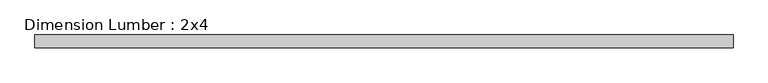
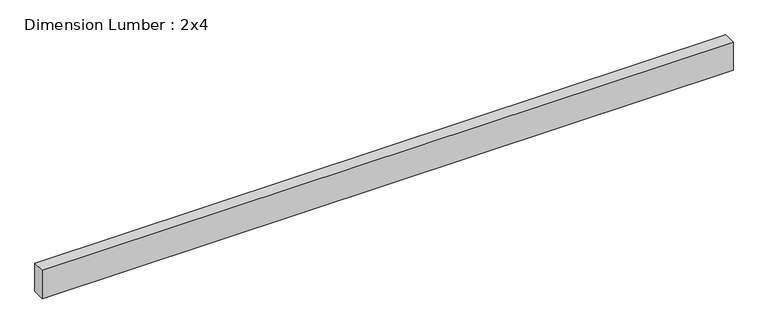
"""IFC4 building model written with IfcOpenShell, lengths in millimetres: beam geometry, Dimension Lumber : 2x4."""

from ifc_helpers import new_model, si_unit, frame, origin, place, context, project, spatial, polyline, outline, extrude, source, transform, mapped, element, save


def dimension_lumber_2x4_dd57d4c7(model_context):
    return source(origin(), model_context, "Body", "SweptSolid", [
        extrude(outline(polyline([(1031.0467136, 19.05), (1031.0467136, -19.05), (-1031.0467136, -19.05), (-1031.0467136, 19.05), (1031.0467136, 19.05)])), frame((0.0, 0.0, -44.45), z_axis=(0.0, 0.0, 1.0), x_axis=(1.0, 0.0, 0.0)), (0.0, 0.0, 1.0), 88.9),
    ])


if __name__ == "__main__":
    model = new_model("IFC4")
    model_context = context("Model", 3, world=origin())
    ifc_project = project(units=[si_unit("LENGTHUNIT", "METRE", prefix="MILLI")], contexts=[model_context])
    site = spatial("IfcSite", under=ifc_project)
    building = spatial("IfcBuilding", under=site)
    placement = place(None, origin())
    dimension_lumber_2x4_shape = dimension_lumber_2x4_dd57d4c7(model_context)
    element("IfcBeam", 1, ObjectType="Dimension Lumber : 2x4", at=placement, inside=building, context=model_context, shape_type="MappedRepresentation", body=[
        mapped(dimension_lumber_2x4_shape, transform((0.0, 0.0, 0.0), x_axis=(1.0, 0.0, 0.0), y_axis=(0.0, 1.0, 0.0), z_axis=(0.0, 0.0, 1.0))),
    ])
    save(model, "model.ifc")
